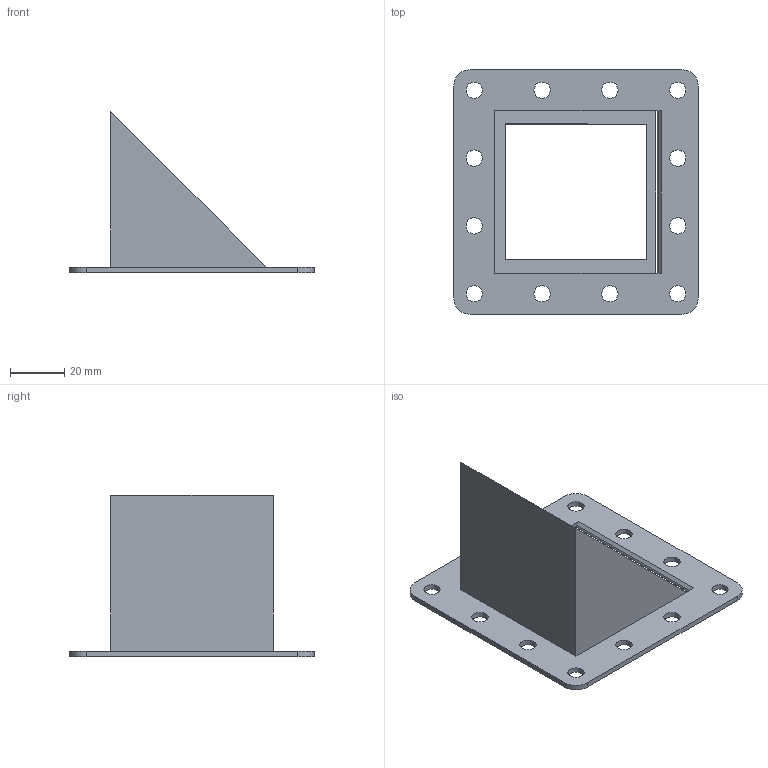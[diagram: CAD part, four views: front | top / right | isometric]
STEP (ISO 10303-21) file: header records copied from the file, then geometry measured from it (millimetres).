
FILE_DESCRIPTION(/* description */ (''),/* implementation_level */ '2;1');
FILE_NAME(/* name */ 'Focus Ramp.step',/* time_stamp */ '2026-01-09T14:16:22-05:00',/* author */ (''),/* organization */ (''),/* preprocessor_version */ 'ST-DEVELOPER v20.1',/* originating_system */ 'Autodesk Translation Framework v14.21.0.0',/* authorisation */ '');
FILE_SCHEMA (('AUTOMOTIVE_DESIGN { 1 0 10303 214 3 1 1 }'));
Length unit declared in the file: millimetre
Products named in the file (1): Focus Ramp
Bounding box: 90 x 90 x 59.39 mm (x, y, z)
Volume: 37603.7 mm3; surface area: 24548.2 mm2
Topology: 1 solids, 1 shells, 34 faces, 94 edges, 62 vertices
Faces by surface type: plane 17, cylinder 17
Full cylindrical faces by diameter (mm): 6 x12
Entity records: 1185 total; most frequent: DIRECTION 198, CARTESIAN_POINT 191, ORIENTED_EDGE 188, EDGE_CURVE 94, AXIS2_PLACEMENT_3D 69, EDGE_LOOP 62, VERTEX_POINT 62, LINE 60
